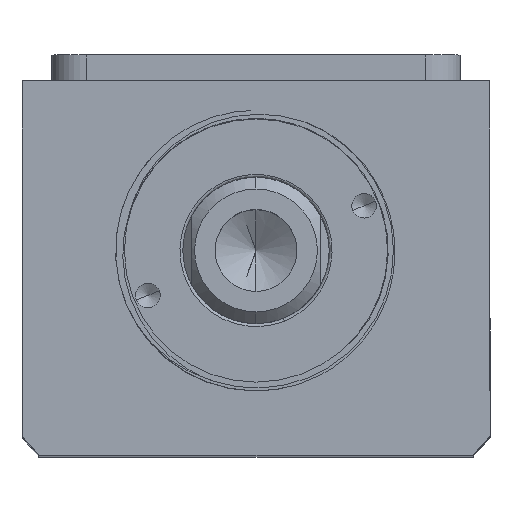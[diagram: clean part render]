
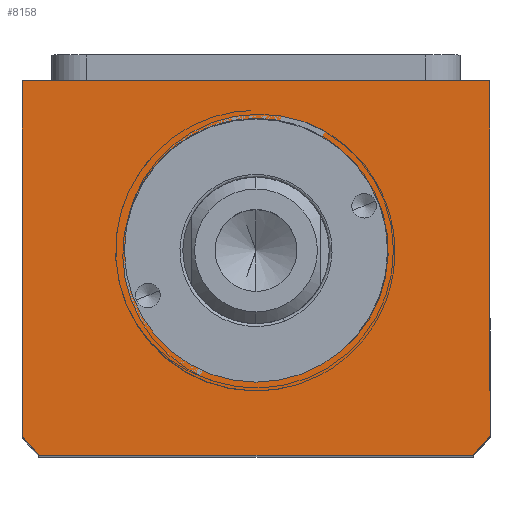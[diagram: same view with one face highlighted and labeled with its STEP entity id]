
A CAD part, top view. The second image highlights one B-rep face of the part: STEP entity #8158.
In plain terms, the highlighted planar face has unit normal (0, 0, 1).
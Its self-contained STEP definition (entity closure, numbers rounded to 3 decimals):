
#6 = AXIS2_PLACEMENT_3D ( 'NONE', #342, #312, #269 ) ;
#55 = ORIENTED_EDGE ( 'NONE', *, *, #9430, .T. ) ;
#269 = DIRECTION ( 'NONE',  ( 1., 0., 0. ) ) ;
#312 = DIRECTION ( 'NONE',  ( 0., 0., 1. ) ) ;
#342 = CARTESIAN_POINT ( 'NONE',  ( 0., -40.507, 170. ) ) ;
#385 = LINE ( 'NONE', #7334, #8811 ) ;
#513 = EDGE_LOOP ( 'NONE', ( #55, #6240, #5773, #8878, #8847, #2568 ) ) ;
#554 = EDGE_LOOP ( 'NONE', ( #921, #6114 ) ) ;
#561 = VERTEX_POINT ( 'NONE', #1966 ) ;
#574 = CARTESIAN_POINT ( 'NONE',  ( -40., -72.145, 170. ) ) ;
#683 = DIRECTION ( 'NONE',  ( 0., 1., 0. ) ) ;
#882 = AXIS2_PLACEMENT_3D ( 'NONE', #4489, #7042, #2349 ) ;
#921 = ORIENTED_EDGE ( 'NONE', *, *, #3018, .F. ) ;
#973 = VECTOR ( 'NONE', #8132, 1000. ) ;
#1289 = DIRECTION ( 'NONE',  ( 1., 0., 0. ) ) ;
#1327 = DIRECTION ( 'NONE',  ( 0., 0., 1. ) ) ;
#1361 = CARTESIAN_POINT ( 'NONE',  ( 0., -40.507, 170. ) ) ;
#1379 = CARTESIAN_POINT ( 'NONE',  ( -22.5, -40.507, 170. ) ) ;
#1598 = VECTOR ( 'NONE', #1977, 1000. ) ;
#1739 = CARTESIAN_POINT ( 'NONE',  ( 22.5, -40.507, 170. ) ) ;
#1755 = VERTEX_POINT ( 'NONE', #1379 ) ;
#1836 = DIRECTION ( 'NONE',  ( 1., 0., 0. ) ) ;
#1966 = CARTESIAN_POINT ( 'NONE',  ( -37.094, -75.507, 170. ) ) ;
#1977 = DIRECTION ( 'NONE',  ( 0., -1., 0. ) ) ;
#2023 = CARTESIAN_POINT ( 'NONE',  ( 40., -11.507, 170. ) ) ;
#2090 = LINE ( 'NONE', #6846, #1598 ) ;
#2349 = DIRECTION ( 'NONE',  ( 1., 0., 0. ) ) ;
#2544 = EDGE_CURVE ( 'NONE', #3659, #5098, #2781, .T. ) ;
#2568 = ORIENTED_EDGE ( 'NONE', *, *, #4048, .T. ) ;
#2781 = CIRCLE ( 'NONE', #8579, 51. ) ;
#2911 = CIRCLE ( 'NONE', #6, 22.5 ) ;
#3018 = EDGE_CURVE ( 'NONE', #9864, #1755, #6989, .T. ) ;
#3061 = VERTEX_POINT ( 'NONE', #574 ) ;
#3088 = EDGE_CURVE ( 'NONE', #1755, #9864, #2911, .T. ) ;
#3622 = EDGE_CURVE ( 'NONE', #3061, #561, #10469, .T. ) ;
#3659 = VERTEX_POINT ( 'NONE', #5315 ) ;
#4048 = EDGE_CURVE ( 'NONE', #5958, #4833, #385, .T. ) ;
#4164 = CARTESIAN_POINT ( 'NONE',  ( -40., -11.507, 170. ) ) ;
#4489 = CARTESIAN_POINT ( 'NONE',  ( 0., -40.507, 170. ) ) ;
#4833 = VERTEX_POINT ( 'NONE', #4164 ) ;
#5056 = CARTESIAN_POINT ( 'NONE',  ( 0., 0., 170. ) ) ;
#5098 = VERTEX_POINT ( 'NONE', #6823 ) ;
#5315 = CARTESIAN_POINT ( 'NONE',  ( 37.094, -75.507, 170. ) ) ;
#5693 = CARTESIAN_POINT ( 'NONE',  ( -40., -75.507, 170. ) ) ;
#5773 = ORIENTED_EDGE ( 'NONE', *, *, #8460, .T. ) ;
#5791 = LINE ( 'NONE', #10451, #7703 ) ;
#5958 = VERTEX_POINT ( 'NONE', #2023 ) ;
#6114 = ORIENTED_EDGE ( 'NONE', *, *, #3088, .F. ) ;
#6240 = ORIENTED_EDGE ( 'NONE', *, *, #3622, .T. ) ;
#6311 = FACE_OUTER_BOUND ( 'NONE', #513, .T. ) ;
#6557 = FACE_BOUND ( 'NONE', #554, .T. ) ;
#6691 = DIRECTION ( 'NONE',  ( 0., 0., 1. ) ) ;
#6823 = CARTESIAN_POINT ( 'NONE',  ( 40., -72.145, 170. ) ) ;
#6846 = CARTESIAN_POINT ( 'NONE',  ( -40., -11.507, 170. ) ) ;
#6939 = LINE ( 'NONE', #5693, #973 ) ;
#6989 = CIRCLE ( 'NONE', #10014, 22.5 ) ;
#7042 = DIRECTION ( 'NONE',  ( 0., 0., 1. ) ) ;
#7334 = CARTESIAN_POINT ( 'NONE',  ( -40., -11.507, 170. ) ) ;
#7362 = DIRECTION ( 'NONE',  ( -1., 0., 0. ) ) ;
#7703 = VECTOR ( 'NONE', #683, 1000. ) ;
#7914 = CARTESIAN_POINT ( 'NONE',  ( 0., -40.507, 170. ) ) ;
#8132 = DIRECTION ( 'NONE',  ( 1., 0., 0. ) ) ;
#8158 = ADVANCED_FACE ( 'NONE', ( #6557, #6311 ), #8334, .T. ) ;
#8334 = PLANE ( 'NONE',  #9071 ) ;
#8460 = EDGE_CURVE ( 'NONE', #561, #3659, #6939, .T. ) ;
#8579 = AXIS2_PLACEMENT_3D ( 'NONE', #7914, #9182, #10388 ) ;
#8811 = VECTOR ( 'NONE', #7362, 1000. ) ;
#8847 = ORIENTED_EDGE ( 'NONE', *, *, #9682, .T. ) ;
#8878 = ORIENTED_EDGE ( 'NONE', *, *, #2544, .T. ) ;
#9071 = AXIS2_PLACEMENT_3D ( 'NONE', #5056, #6691, #1836 ) ;
#9182 = DIRECTION ( 'NONE',  ( 0., 0., 1. ) ) ;
#9430 = EDGE_CURVE ( 'NONE', #4833, #3061, #2090, .T. ) ;
#9682 = EDGE_CURVE ( 'NONE', #5098, #5958, #5791, .T. ) ;
#9864 = VERTEX_POINT ( 'NONE', #1739 ) ;
#10014 = AXIS2_PLACEMENT_3D ( 'NONE', #1361, #1327, #1289 ) ;
#10388 = DIRECTION ( 'NONE',  ( 1., 0., 0. ) ) ;
#10451 = CARTESIAN_POINT ( 'NONE',  ( 40., -11.507, 170. ) ) ;
#10469 = CIRCLE ( 'NONE', #882, 51. ) ;
